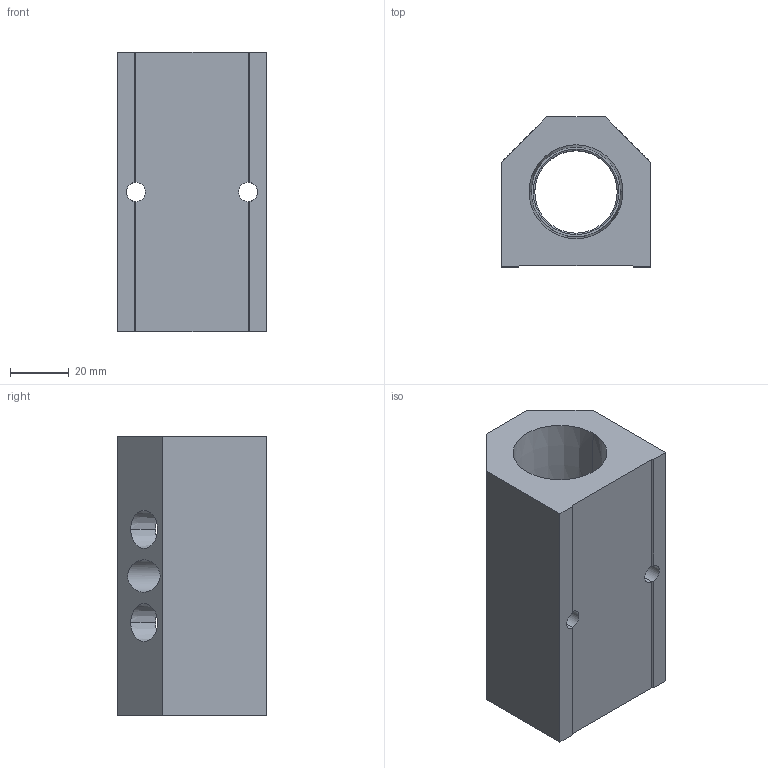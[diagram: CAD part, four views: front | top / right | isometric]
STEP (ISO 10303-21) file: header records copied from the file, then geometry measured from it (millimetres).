
FILE_DESCRIPTION (( 'STEP AP214' ), '1' );
FILE_NAME ('ALM2BCD-N4N16-95R.STEP', '2023-11-02T06:44:57', ( '' ), ( '' ), 'SwSTEP 2.0', 'SolidWorks 2020', '' );
FILE_SCHEMA (( 'AUTOMOTIVE_DESIGN' ));
Length unit declared in the file: millimetre
Products named in the file (1): ALM2BCD-N4N16-95R
Bounding box: 50.8 x 50.8 x 95 mm (x, y, z)
Volume: 142762.1 mm3; surface area: 32740.5 mm2
Topology: 1 solids, 1 shells, 298 faces, 777 edges, 514 vertices
Faces by surface type: plane 201, bspline 63, cone 20, cylinder 14
Entity records: 16444 total; most frequent: CARTESIAN_POINT 6701, ORIENTED_EDGE 1554, DIRECTION 1147, EDGE_CURVE 777, LINE 587, VECTOR 587, VERTEX_POINT 514, EDGE_LOOP 349
